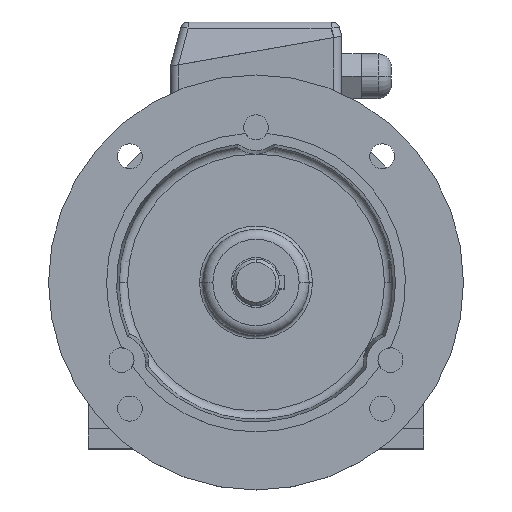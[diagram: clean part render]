
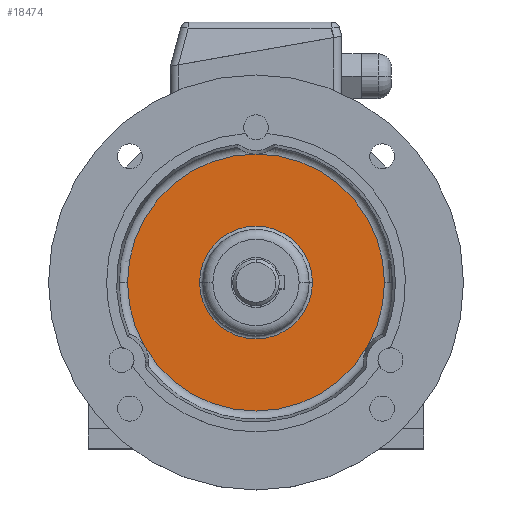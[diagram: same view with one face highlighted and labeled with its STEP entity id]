
A CAD part, top view. The second image highlights one B-rep face of the part: STEP entity #18474.
In plain terms, the highlighted planar face has unit normal (0, 0, 1).
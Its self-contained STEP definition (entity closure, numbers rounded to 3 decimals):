
#16468 = EDGE_CURVE ( 'NONE', #23823, #13315, #22049, .T. ) ;
#470 = ORIENTED_EDGE ( 'NONE', *, *, #10363, .F. ) ;
#1123 = ORIENTED_EDGE ( 'NONE', *, *, #18979, .F. ) ;
#1768 = EDGE_LOOP ( 'NONE', ( #1123, #470 ) ) ;
#2074 = ORIENTED_EDGE ( 'NONE', *, *, #16468, .T. ) ;
#18474 = ADVANCED_FACE ( 'NONE', ( #24300, #24301 ), #24302, .T. ) ;
#18979 = EDGE_CURVE ( 'NONE', #14201, #22116, #24687, .T. ) ;
#18984 = CARTESIAN_POINT ( 'NONE',  ( -34., 0., 26. ) ) ;
#2746 = EDGE_CURVE ( 'NONE', #13315, #23823, #9195, .T. ) ;
#2752 = CARTESIAN_POINT ( 'NONE',  ( 77.406, 0., 26. ) ) ;
#3202 = ORIENTED_EDGE ( 'NONE', *, *, #2746, .T. ) ;
#19920 = CARTESIAN_POINT ( 'NONE',  ( -77.406, 0., 26. ) ) ;
#3997 = EDGE_LOOP ( 'NONE', ( #3202, #2074 ) ) ;
#4960 = CARTESIAN_POINT ( 'NONE',  ( 34., 0., 26. ) ) ;
#22049 = CIRCLE ( 'NONE', #22050, 34. ) ;
#22050 = AXIS2_PLACEMENT_3D ( 'NONE', #22051, #22052, #22053 ) ;
#22051 = CARTESIAN_POINT ( 'NONE',  ( 0., 0., 26. ) ) ;
#22052 = DIRECTION ( 'NONE',  ( 0., 0., -1. ) ) ;
#22053 = DIRECTION ( 'NONE',  ( -1., 0., 0. ) ) ;
#22116 = VERTEX_POINT ( 'NONE', #2752 ) ;
#23823 = VERTEX_POINT ( 'NONE', #4960 ) ;
#24300 = FACE_BOUND ( 'NONE', #3997, .T. ) ;
#24301 = FACE_OUTER_BOUND ( 'NONE', #1768, .T. ) ;
#24302 = PLANE ( 'NONE',  #24303 ) ;
#24303 = AXIS2_PLACEMENT_3D ( 'NONE', #24304, #24305, #24306 ) ;
#24304 = CARTESIAN_POINT ( 'NONE',  ( -77.406, 0., 26. ) ) ;
#24305 = DIRECTION ( 'NONE',  ( 0., 0., 1. ) ) ;
#24306 = DIRECTION ( 'NONE',  ( 1., 0., 0. ) ) ;
#24687 = CIRCLE ( 'NONE', #24688, 77.406 ) ;
#24688 = AXIS2_PLACEMENT_3D ( 'NONE', #24689, #24690, #24691 ) ;
#24689 = CARTESIAN_POINT ( 'NONE',  ( 0., 0., 26. ) ) ;
#24690 = DIRECTION ( 'NONE',  ( 0., 0., -1. ) ) ;
#24691 = DIRECTION ( 'NONE',  ( -1., 0., 0. ) ) ;
#9195 = CIRCLE ( 'NONE', #9196, 34. ) ;
#9196 = AXIS2_PLACEMENT_3D ( 'NONE', #9197, #9198, #9199 ) ;
#9197 = CARTESIAN_POINT ( 'NONE',  ( 0., 0., 26. ) ) ;
#9198 = DIRECTION ( 'NONE',  ( 0., 0., -1. ) ) ;
#9199 = DIRECTION ( 'NONE',  ( -1., 0., 0. ) ) ;
#10363 = EDGE_CURVE ( 'NONE', #22116, #14201, #15304, .T. ) ;
#13315 = VERTEX_POINT ( 'NONE', #18984 ) ;
#14201 = VERTEX_POINT ( 'NONE', #19920 ) ;
#15304 = CIRCLE ( 'NONE', #15305, 77.406 ) ;
#15305 = AXIS2_PLACEMENT_3D ( 'NONE', #15306, #15307, #15308 ) ;
#15306 = CARTESIAN_POINT ( 'NONE',  ( 0., 0., 26. ) ) ;
#15307 = DIRECTION ( 'NONE',  ( 0., 0., -1. ) ) ;
#15308 = DIRECTION ( 'NONE',  ( -1., 0., 0. ) ) ;
